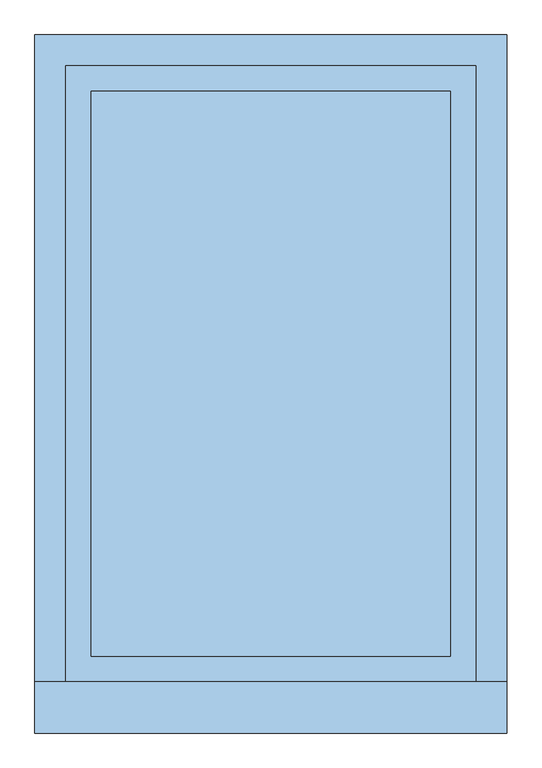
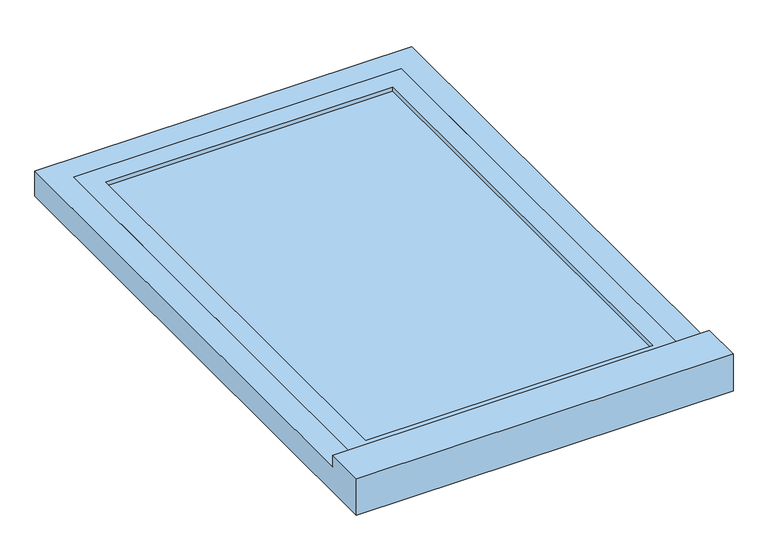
"""IFC4 building model written with IfcOpenShell, lengths in millimetres: window geometry, Fenêtre de toit : Fenêtre de toit."""

import ifcopenshell
import ifcopenshell.guid

model = None  # the IFC model being written
_history = None  # IfcOwnerHistory: only IFC2X3 demands one
_inside = {}  # id of a spatial element -> (the spatial element, [elements in it])
_under = {}  # id of a project, library or spatial element -> (it, [spatial elements below it])
_declared = {}  # id of a project -> (the project, [libraries it declares])
_typed = {}  # id of a type object -> (the type object, [elements of that type])
_made_of = {}  # id of a material, layer set ... -> (it, [elements and type objects made of it])


def new_model(schema):
    """Start an empty IFC model of exactly this schema.

    Asked for "IFC4X3", IfcOpenShell would pick the latest addendum, in which some entities
    have other attributes; the version numbers below select the first issue.
    IFC2X3 requires an IfcOwnerHistory on every rooted entity: one is made here for all.
    """
    global model, _history
    if schema == "IFC4X3":
        model = ifcopenshell.file(schema_version=(4, 3, 0, 0))
    else:
        model = ifcopenshell.file(schema=schema)
    _inside.clear()
    _under.clear()
    _declared.clear()
    _typed.clear()
    _made_of.clear()
    _history = None
    if model.schema == "IFC2X3":
        org = make("IfcOrganization", Name="unknown")
        user = make(
            "IfcPersonAndOrganization",
            ThePerson=make("IfcPerson", FamilyName="unknown"),
            TheOrganization=org,
        )
        app = make(
            "IfcApplication",
            ApplicationDeveloper=org,
            Version="unknown",
            ApplicationFullName="unknown",
            ApplicationIdentifier="unknown",
        )
        _history = make(
            "IfcOwnerHistory",
            OwningUser=user,
            OwningApplication=app,
            ChangeAction="ADDED",
            CreationDate=0,
        )
    return model


def make(cls, **values):
    """One entity of the class cls with the attributes given. An attribute that is None is left unset."""
    return model.create_entity(
        cls, **{name: value for name, value in values.items() if value is not None}
    )


def rooted(cls, **values):
    """An entity with a GlobalId (a new one), such as an element, a storey or a relation."""
    return make(cls, GlobalId=ifcopenshell.guid.new(), OwnerHistory=_history, **values)


def si_unit(unit_type, name, prefix=None):
    """IfcSIUnit, for example si_unit("LENGTHUNIT", "METRE", prefix="MILLI")."""
    return make("IfcSIUnit", UnitType=unit_type, Prefix=prefix, Name=name)


def assignment(units):
    """IfcUnitAssignment: the units of a project."""
    return None if units is None else make("IfcUnitAssignment", Units=units)


def point(xyz):
    """IfcCartesianPoint."""
    return None if xyz is None else make("IfcCartesianPoint", Coordinates=xyz)


def direction(xyz):
    """IfcDirection."""
    return None if xyz is None else make("IfcDirection", DirectionRatios=xyz)


def frame(location, z_axis=None, x_axis=None):
    """IfcAxis2Placement3D, a coordinate frame: its origin and axes. An axis left out is left unset."""
    return make(
        "IfcAxis2Placement3D",
        Location=point(location),
        Axis=direction(z_axis),
        RefDirection=direction(x_axis),
    )


def origin():
    """The frame at (0, 0, 0) with its axes left unset."""
    return frame((0.0, 0.0, 0.0))


def place(relative_to, where):
    """IfcLocalPlacement: puts the frame where relative to a parent placement (None: the world)."""
    return make(
        "IfcLocalPlacement", PlacementRelTo=relative_to, RelativePlacement=where
    )


def context(
    kind, dimensions, precision=None, world=None, true_north=None, identifier=None
):
    """IfcGeometricRepresentationContext, for example the 3D "Model" context."""
    return make(
        "IfcGeometricRepresentationContext",
        ContextIdentifier=identifier,
        ContextType=kind,
        CoordinateSpaceDimension=dimensions,
        Precision=precision,
        WorldCoordinateSystem=world,
        TrueNorth=true_north,
    )


def project(units=None, contexts=None):
    """IfcProject with its units and contexts."""
    return rooted(
        "IfcProject",
        Name="project",
        RepresentationContexts=contexts,
        UnitsInContext=assignment(units),
    )


def spatial(cls, under=None, at=None, **own):
    """A site, building, storey or space (cls), placed at a placement, below another one or the project."""
    s = rooted(cls, ObjectPlacement=at, **own)
    if under is not None:
        _under.setdefault(under.id(), (under, []))[1].append(s)
    return s


def polyline(points):
    """IfcPolyline through the points."""
    return make("IfcPolyline", Points=[point(p) for p in points])


def circle_curve(where, radius):
    """IfcCircle in the frame where."""
    return make("IfcCircle", Position=where, Radius=radius)


def outline(outer, holes=None, kind="AREA"):
    """IfcArbitraryClosedProfileDef: a profile drawn as a closed curve; with holes, ...WithVoids."""
    if holes is None:
        return make("IfcArbitraryClosedProfileDef", ProfileType=kind, OuterCurve=outer)
    return make(
        "IfcArbitraryProfileDefWithVoids",
        ProfileType=kind,
        OuterCurve=outer,
        InnerCurves=holes,
    )


def extrude(swept, where, along, depth):
    """IfcExtrudedAreaSolid: the profile swept, set in the frame where, extruded along a direction by depth."""
    return make(
        "IfcExtrudedAreaSolid",
        SweptArea=swept,
        Position=where,
        ExtrudedDirection=direction(along),
        Depth=depth,
    )


def faces_of(points, faces, orient=None, outer=None):
    """IfcFace entities. A face is a list of loops; a loop is a list of indices into points, from 0.

    orient and outer hold one flag for each loop. By default every Orientation is true, the
    first loop of a face is its IfcFaceOuterBound and the others are IfcFaceBound.
    """
    made = []
    for i, loops in enumerate(faces):
        bounds = []
        for j, loop in enumerate(loops):
            is_outer = j == 0 if outer is None else outer[i][j]
            bounds.append(
                make(
                    "IfcFaceOuterBound" if is_outer else "IfcFaceBound",
                    Bound=make("IfcPolyLoop", Polygon=[points[k] for k in loop]),
                    Orientation=True if orient is None else orient[i][j],
                )
            )
        made.append(make("IfcFace", Bounds=bounds))
    return made


def faceted_brep(points, faces, orient=None, outer=None, voids=None):
    """IfcFacetedBrep: a solid bounded by flat faces; with voids (closed shells), ...WithVoids."""
    shared = [point(p) for p in points]
    hull = make("IfcClosedShell", CfsFaces=faces_of(shared, faces, orient, outer))
    if voids is None:
        return make("IfcFacetedBrep", Outer=hull)
    return make(
        "IfcFacetedBrepWithVoids",
        Outer=hull,
        Voids=[
            make(cls, CfsFaces=faces_of(shared, fs, o, b)) for cls, fs, o, b in voids
        ],
    )


def shape(context_of_items, identifier, shape_type, items):
    """IfcShapeRepresentation: the items that make up one representation, for example the "Body"."""
    return make(
        "IfcShapeRepresentation",
        ContextOfItems=context_of_items,
        RepresentationIdentifier=identifier,
        RepresentationType=shape_type,
        Items=items,
    )


def source(mapping_origin, context_of_items, identifier, shape_type, items):
    """IfcRepresentationMap: a shape defined once, which mapped items show again and again."""
    return make(
        "IfcRepresentationMap",
        MappingOrigin=mapping_origin,
        MappedRepresentation=shape(context_of_items, identifier, shape_type, items),
    )


def transform(
    local_origin,
    x_axis=None,
    y_axis=None,
    z_axis=None,
    scale=None,
    scale2=None,
    scale3=None,
    uniform=True,
):
    """IfcCartesianTransformationOperator3D, or its non-uniform kind. x_axis, y_axis, z_axis: its Axis1, 2, 3."""
    if uniform:
        return make(
            "IfcCartesianTransformationOperator3D",
            Axis1=direction(x_axis),
            Axis2=direction(y_axis),
            LocalOrigin=point(local_origin),
            Scale=scale,
            Axis3=direction(z_axis),
        )
    return make(
        "IfcCartesianTransformationOperator3DnonUniform",
        Axis1=direction(x_axis),
        Axis2=direction(y_axis),
        LocalOrigin=point(local_origin),
        Scale=scale,
        Axis3=direction(z_axis),
        Scale2=scale2,
        Scale3=scale3,
    )


def mapped(mapping_source, mapping_target):
    """IfcMappedItem: shows the shape of a source again, moved by a transform."""
    return make(
        "IfcMappedItem", MappingSource=mapping_source, MappingTarget=mapping_target
    )


def made_of(thing, what):
    """Note that an element or type object is made of a material, layer set ...; save() writes the relation."""
    if what is not None:
        _made_of.setdefault(what.id(), (what, []))[1].append(thing)
    return thing


def element(
    cls,
    number,
    at=None,
    inside=None,
    cuts=None,
    type_object=None,
    material=None,
    context=None,
    identifier="Body",
    shape_type=None,
    held_by="IfcProductDefinitionShape",
    body=None,
    shapes=None,
    **own,
):
    """One element of the class cls, such as IfcWall. Its Tag is "e" and its number.

    at: its placement. inside: the storey or other place that contains it. cuts: it is an
    opening in that element (IfcRelVoidsElement). A single representation is given by context,
    identifier, shape_type and body (its items); several are given by shapes. held_by: the class
    of the entity that holds the representations. save() writes the other relations.
    """
    e = rooted(cls, Tag="e%d" % number, ObjectPlacement=at, **own)
    if body is not None:
        shapes = [shape(context, identifier, shape_type, body)]
    if shapes is not None:
        e.Representation = make(held_by, Representations=shapes)
    if inside is not None:
        _inside.setdefault(inside.id(), (inside, []))[1].append(e)
    if cuts is not None:
        rooted(
            "IfcRelVoidsElement", RelatingBuildingElement=cuts, RelatedOpeningElement=e
        )
    if type_object is not None:
        _typed.setdefault(type_object.id(), (type_object, []))[1].append(e)
    return made_of(e, material)


def aggregate(whole, parts):
    """IfcRelAggregates: a whole, such as a stair, and the parts it consists of."""
    return rooted("IfcRelAggregates", RelatingObject=whole, RelatedObjects=parts)


def save(model, path):
    """Write the relations noted so far, then the file.

    IfcRelAggregates (storeys below a building ...), IfcRelContainedInSpatialStructure (elements
    in a storey), IfcRelDefinesByType, IfcRelAssociatesMaterial and IfcRelDeclares: one each for
    every whole, place, type object, material and project.
    """
    for whole, parts in _under.values():
        aggregate(whole, parts)
    for where, things in _inside.values():
        rooted(
            "IfcRelContainedInSpatialStructure",
            RelatedElements=things,
            RelatingStructure=where,
        )
    for kind, things in _typed.values():
        rooted("IfcRelDefinesByType", RelatedObjects=things, RelatingType=kind)
    for what, things in _made_of.values():
        rooted("IfcRelAssociatesMaterial", RelatedObjects=things, RelatingMaterial=what)
    for by, libraries in _declared.values():
        rooted("IfcRelDeclares", RelatingContext=by, RelatedDefinitions=libraries)
    model.write(path)


def plane_surface(at):
    """IfcPlane: the flat surface through the origin of the frame at, square to its z axis."""
    return make("IfcPlane", Position=at)


def cylinder_surface(at, radius):
    """IfcCylindricalSurface: all points at the distance radius from the z axis of the frame at."""
    return make("IfcCylindricalSurface", Position=at, Radius=radius)


def advanced_brep(points, edges, surfaces, faces):
    """IfcAdvancedBrep: a solid bounded by faces that lie on surfaces and meet in shared edges.

    An edge is (start, end): straight between two places in points (the first is 0);
    or (start, end, curve); or (start, end, curve, False) where it runs against its curve.
    A face is (place in surfaces, loops), or (place, loops, False) where it looks against
    its surface's normal. A loop lists edges by number (the first is 1), with a minus sign
    where the edge is run from its end to its start. The first loop is the outer one.
    """
    corners = [point(p) for p in points]
    vertices = [make("IfcVertexPoint", VertexGeometry=c) for c in corners]
    made = []
    for start, end, *more in edges:
        made.append(
            make(
                "IfcEdgeCurve",
                EdgeStart=vertices[start],
                EdgeEnd=vertices[end],
                EdgeGeometry=more[0] if more else make("IfcPolyline", Points=[corners[start], corners[end]]),
                SameSense=more[1] if len(more) > 1 else True,
            )
        )
    hull = []
    for where, loops, *sense in faces:
        bounds = []
        for j, loop in enumerate(loops):
            ring = [make("IfcOrientedEdge", EdgeElement=made[abs(k) - 1], Orientation=k > 0) for k in loop]
            bounds.append(
                make(
                    "IfcFaceOuterBound" if j == 0 else "IfcFaceBound",
                    Bound=make("IfcEdgeLoop", EdgeList=ring),
                    Orientation=True,
                )
            )
        hull.append(make("IfcAdvancedFace", Bounds=bounds, FaceSurface=surfaces[where], SameSense=sense[0] if sense else True))
    return make("IfcAdvancedBrep", Outer=make("IfcClosedShell", CfsFaces=hull))


def window_fea40982(model_context):
    return source(origin(), model_context, "Body", "SolidModel", [
        advanced_brep(
        [(-385.0, -563.5, 4310.0), (-385.0, -586.5, 4310.0), (-385.0, -586.5, 4320.0), (-385.0, -563.5, 4320.0), (385.0, -563.5, 4310.0), (385.0, -563.5, 4320.0), (385.0, -586.5, 4320.0), (385.0, -586.5, 4310.0), (345.0, -570.0, 4320.0), (345.0, -580.0, 4320.0), (335.0, -580.0, 4320.0), (335.0, -570.0, 4320.0), (118.3333333, -570.0, 4320.0), (118.3333333, -580.0, 4320.0), (108.3333333, -580.0, 4320.0), (108.3333333, -570.0, 4320.0), (-108.3333333, -570.0, 4320.0), (-108.3333333, -580.0, 4320.0), (-118.3333333, -580.0, 4320.0), (-118.3333333, -570.0, 4320.0), (-335.0, -570.0, 4320.0), (-335.0, -580.0, 4320.0), (-345.0, -580.0, 4320.0), (-345.0, -570.0, 4320.0), (345.0, -570.0, 4355.0), (335.0, -570.0, 4355.0), (335.0, -580.0, 4355.0), (345.0, -580.0, 4355.0), (118.3333333, -570.0, 4355.0), (108.3333333, -570.0, 4355.0), (108.3333333, -580.0, 4355.0), (118.3333333, -580.0, 4355.0), (-108.3333333, -570.0, 4355.0), (-118.3333333, -570.0, 4355.0), (-118.3333333, -580.0, 4355.0), (-108.3333333, -580.0, 4355.0), (-335.0, -570.0, 4355.0), (-345.0, -570.0, 4355.0), (-345.0, -580.0, 4355.0), (-335.0, -580.0, 4355.0)],
        [
            (0, 1),
            (1, 2, circle_curve(frame((-385.0, -586.5, 4315.0), z_axis=(-1.0, 0.0, 0.0), x_axis=(0.0, 1.0, 0.0)), 5.0)),
            (2, 3),
            (3, 0, circle_curve(frame((-385.0, -563.5, 4315.0), z_axis=(-1.0, 0.0, 0.0), x_axis=(0.0, 1.0, 0.0)), 5.0)),
            (4, 5, circle_curve(frame((385.0, -563.5, 4315.0), z_axis=(1.0, 0.0, 0.0), x_axis=(0.0, 1.0, 0.0)), 5.0)),
            (5, 6),
            (6, 7, circle_curve(frame((385.0, -586.5, 4315.0), z_axis=(1.0, 0.0, 0.0), x_axis=(0.0, 1.0, 0.0)), 5.0)),
            (7, 4),
            (0, 4),
            (7, 1),
            (6, 2),
            (5, 3),
            (8, 9),
            (9, 10, circle_curve(frame((340.0, -580.0, 4320.0), z_axis=(0.0, 0.0, -1.0), x_axis=(-1.0, 0.0, 0.0)), 5.0)),
            (10, 11),
            (11, 8, circle_curve(frame((340.0, -570.0, 4320.0), z_axis=(0.0, 0.0, -1.0), x_axis=(-1.0, 0.0, 0.0)), 5.0)),
            (12, 13),
            (13, 14, circle_curve(frame((113.3333333, -580.0, 4320.0), z_axis=(0.0, 0.0, -1.0), x_axis=(-1.0, 0.0, 0.0)), 5.0)),
            (14, 15),
            (15, 12, circle_curve(frame((113.3333333, -570.0, 4320.0), z_axis=(0.0, 0.0, -1.0), x_axis=(-1.0, 0.0, 0.0)), 5.0)),
            (16, 17),
            (17, 18, circle_curve(frame((-113.3333333, -580.0, 4320.0), z_axis=(0.0, 0.0, -1.0), x_axis=(-1.0, 0.0, 0.0)), 5.0)),
            (18, 19),
            (19, 16, circle_curve(frame((-113.3333333, -570.0, 4320.0), z_axis=(0.0, 0.0, -1.0), x_axis=(-1.0, 0.0, 0.0)), 5.0)),
            (20, 21),
            (21, 22, circle_curve(frame((-340.0, -580.0, 4320.0), z_axis=(0.0, 0.0, -1.0), x_axis=(-1.0, 0.0, 0.0)), 5.0)),
            (22, 23),
            (23, 20, circle_curve(frame((-340.0, -570.0, 4320.0), z_axis=(0.0, 0.0, -1.0), x_axis=(-1.0, 0.0, 0.0)), 5.0)),
            (24, 25, circle_curve(frame((340.0, -570.0, 4355.0), z_axis=(0.0, 0.0, 1.0), x_axis=(-1.0, 0.0, 0.0)), 5.0)),
            (25, 26),
            (26, 27, circle_curve(frame((340.0, -580.0, 4355.0), z_axis=(0.0, 0.0, 1.0), x_axis=(-1.0, 0.0, 0.0)), 5.0)),
            (27, 24),
            (28, 29, circle_curve(frame((113.3333333, -570.0, 4355.0), z_axis=(0.0, 0.0, 1.0), x_axis=(-1.0, 0.0, 0.0)), 5.0)),
            (29, 30),
            (30, 31, circle_curve(frame((113.3333333, -580.0, 4355.0), z_axis=(0.0, 0.0, 1.0), x_axis=(-1.0, 0.0, 0.0)), 5.0)),
            (31, 28),
            (32, 33, circle_curve(frame((-113.3333333, -570.0, 4355.0), z_axis=(0.0, 0.0, 1.0), x_axis=(-1.0, 0.0, 0.0)), 5.0)),
            (33, 34),
            (34, 35, circle_curve(frame((-113.3333333, -580.0, 4355.0), z_axis=(0.0, 0.0, 1.0), x_axis=(-1.0, 0.0, 0.0)), 5.0)),
            (35, 32),
            (36, 37, circle_curve(frame((-340.0, -570.0, 4355.0), z_axis=(0.0, 0.0, 1.0), x_axis=(-1.0, 0.0, 0.0)), 5.0)),
            (37, 38),
            (38, 39, circle_curve(frame((-340.0, -580.0, 4355.0), z_axis=(0.0, 0.0, 1.0), x_axis=(-1.0, 0.0, 0.0)), 5.0)),
            (39, 36),
            (27, 9),
            (8, 24),
            (26, 10),
            (25, 11),
            (31, 13),
            (12, 28),
            (30, 14),
            (29, 15),
            (35, 17),
            (16, 32),
            (34, 18),
            (33, 19),
            (39, 21),
            (20, 36),
            (38, 22),
            (37, 23),
        ],
        [
            plane_surface(frame((-385.0, -604.8858213, 4310.0), z_axis=(-1.0, 0.0, 0.0), x_axis=(0.0, -1.0, 0.0))),
            plane_surface(frame((385.0, -604.8858213, 4310.0), z_axis=(1.0, 0.0, 0.0), x_axis=(0.0, 1.0, 0.0))),
            plane_surface(frame((-385.0, -563.5, 4310.0), z_axis=(0.0, 0.0, -1.0), x_axis=(1.0, 0.0, 0.0))),
            cylinder_surface(frame((385.0, -586.5, 4315.0), z_axis=(-1.0, 0.0, 0.0), x_axis=(0.0, 1.0, 0.0)), 5.0),
            plane_surface(frame((-385.0, -586.5, 4320.0), z_axis=(0.0, 0.0, 1.0), x_axis=(1.0, 0.0, 0.0))),
            cylinder_surface(frame((385.0, -563.5, 4315.0), z_axis=(-1.0, 0.0, 0.0), x_axis=(0.0, 1.0, 0.0)), 5.0),
            plane_surface(frame((345.0, -580.0, 4355.0), z_axis=(0.0, 0.0, 1.0), x_axis=(0.0, 1.0, 0.0))),
            plane_surface(frame((345.0, -570.0, 4315.0), z_axis=(1.0, 0.0, 0.0), x_axis=(0.0, 0.0, 1.0))),
            cylinder_surface(frame((340.0, -580.0, 4355.0), z_axis=(0.0, 0.0, -1.0), x_axis=(-1.0, 0.0, 0.0)), 5.0),
            plane_surface(frame((335.0, -580.0, 4315.0), z_axis=(-1.0, 0.0, 0.0), x_axis=(0.0, 0.0, 1.0))),
            cylinder_surface(frame((340.0, -570.0, 4355.0), z_axis=(0.0, 0.0, -1.0), x_axis=(-1.0, 0.0, 0.0)), 5.0),
            plane_surface(frame((118.3333333, -570.0, 4315.0), z_axis=(1.0, 0.0, 0.0), x_axis=(0.0, 0.0, 1.0))),
            cylinder_surface(frame((113.3333333, -580.0, 4355.0), z_axis=(0.0, 0.0, -1.0), x_axis=(-1.0, 0.0, 0.0)), 5.0),
            plane_surface(frame((108.3333333, -580.0, 4315.0), z_axis=(-1.0, 0.0, 0.0), x_axis=(0.0, 0.0, 1.0))),
            cylinder_surface(frame((113.3333333, -570.0, 4355.0), z_axis=(0.0, 0.0, -1.0), x_axis=(-1.0, 0.0, 0.0)), 5.0),
            plane_surface(frame((-108.3333333, -570.0, 4315.0), z_axis=(1.0, 0.0, 0.0), x_axis=(0.0, 0.0, 1.0))),
            cylinder_surface(frame((-113.3333333, -580.0, 4355.0), z_axis=(0.0, 0.0, -1.0), x_axis=(-1.0, 0.0, 0.0)), 5.0),
            plane_surface(frame((-118.3333333, -580.0, 4315.0), z_axis=(-1.0, 0.0, 0.0), x_axis=(0.0, 0.0, 1.0))),
            cylinder_surface(frame((-113.3333333, -570.0, 4355.0), z_axis=(0.0, 0.0, -1.0), x_axis=(-1.0, 0.0, 0.0)), 5.0),
            plane_surface(frame((-335.0, -570.0, 4315.0), z_axis=(1.0, 0.0, 0.0), x_axis=(0.0, 0.0, 1.0))),
            cylinder_surface(frame((-340.0, -580.0, 4355.0), z_axis=(0.0, 0.0, -1.0), x_axis=(-1.0, 0.0, 0.0)), 5.0),
            plane_surface(frame((-345.0, -580.0, 4315.0), z_axis=(-1.0, 0.0, 0.0), x_axis=(0.0, 0.0, 1.0))),
            cylinder_surface(frame((-340.0, -570.0, 4355.0), z_axis=(0.0, 0.0, -1.0), x_axis=(-1.0, 0.0, 0.0)), 5.0),
        ],
        [
            (0, [[1, 2, 3, 4]]),
            (1, [[5, 6, 7, 8]]),
            (2, [[-1, 9, -8, 10]]),
            (3, [[-2, -10, -7, 11]]),
            (4, [[-3, -11, -6, 12], [13, 14, 15, 16], [17, 18, 19, 20], [21, 22, 23, 24], [25, 26, 27, 28]]),
            (5, [[-4, -12, -5, -9]]),
            (6, [[29, 30, 31, 32]]),
            (6, [[33, 34, 35, 36]]),
            (6, [[37, 38, 39, 40]]),
            (6, [[41, 42, 43, 44]]),
            (7, [[-32, 45, -13, 46]]),
            (8, [[-31, 47, -14, -45]]),
            (9, [[-30, 48, -15, -47]]),
            (10, [[-29, -46, -16, -48]]),
            (11, [[-36, 49, -17, 50]]),
            (12, [[-35, 51, -18, -49]]),
            (13, [[-34, 52, -19, -51]]),
            (14, [[-33, -50, -20, -52]]),
            (15, [[-40, 53, -21, 54]]),
            (16, [[-39, 55, -22, -53]]),
            (17, [[-38, 56, -23, -55]]),
            (18, [[-37, -54, -24, -56]]),
            (19, [[-44, 57, -25, 58]]),
            (20, [[-43, 59, -26, -57]]),
            (21, [[-42, 60, -27, -59]]),
            (22, [[-41, -58, -28, -60]]),
        ],
    ),
        extrude(outline(polyline([(-400.0, -600.0), (-400.0, 600.0), (400.0, 600.0), (400.0, -600.0), (-400.0, -600.0)]), holes=[polyline([(-350.0, 550.0), (-350.0, -550.0), (350.0, -550.0), (350.0, 550.0), (-350.0, 550.0)])]), frame((0.0, 0.0, 4355.0), z_axis=(0.0, 0.0, 1.0), x_axis=(1.0, 0.0, 0.0)), (0.0, 0.0, 1.0), 40.0),
        extrude(outline(polyline([(350.0, -550.0), (-350.0, -550.0), (-350.0, 550.0), (350.0, 550.0), (350.0, -550.0)])), frame((0.0, 0.0, 4375.0), z_axis=(0.0, 0.0, 1.0), x_axis=(1.0, 0.0, 0.0)), (0.0, 0.0, 1.0), 10.0),
        faceted_brep([(460.0, 660.0, 4395.0), (-460.0, 660.0, 4395.0), (-460.0, -600.0, 4395.0), (-400.0, -600.0, 4395.0), (-400.0, 600.0, 4395.0), (400.0, 600.0, 4395.0), (400.0, -600.0, 4395.0), (460.0, -600.0, 4395.0), (460.0, -700.0, 4330.0), (-460.0, -700.0, 4330.0), (-460.0, 660.0, 4330.0), (460.0, 660.0, 4330.0), (-400.0, -600.0, 4330.0), (400.0, -600.0, 4330.0), (400.0, 600.0, 4330.0), (-400.0, 600.0, 4330.0), (460.0, -600.0, 4425.0), (460.0, -700.0, 4425.0), (-460.0, -700.0, 4425.0), (-460.0, -600.0, 4425.0)], [[[0, 1, 2, 3, 4, 5, 6, 7]], [[8, 9, 10, 11], [12, 13, 14, 15]], [[8, 11, 0, 7, 16, 17]], [[1, 0, 11, 10]], [[10, 9, 18, 19, 2, 1]], [[18, 9, 8, 17]], [[4, 3, 12, 15]], [[5, 4, 15, 14]], [[6, 5, 14, 13]], [[13, 12, 3, 2, 19, 16, 7, 6]], [[19, 18, 17, 16]]]),
    ])


if __name__ == "__main__":
    model = new_model("IFC4")
    model_context = context("Model", 3, world=origin())
    ifc_project = project(units=[si_unit("LENGTHUNIT", "METRE", prefix="MILLI")], contexts=[model_context])
    site = spatial("IfcSite", under=ifc_project)
    building = spatial("IfcBuilding", under=site)
    placement = place(None, origin())
    window_shape = window_fea40982(model_context)
    element("IfcWindow", 1, ObjectType="Fenêtre de toit : Fenêtre de toit", at=placement, inside=building, context=model_context, shape_type="MappedRepresentation", body=[
        mapped(window_shape, transform((0.0, 0.0, 0.0), x_axis=(1.0, 0.0, 0.0), y_axis=(0.0, 1.0, 0.0), z_axis=(0.0, 0.0, 1.0))),
    ])
    save(model, "model.ifc")
